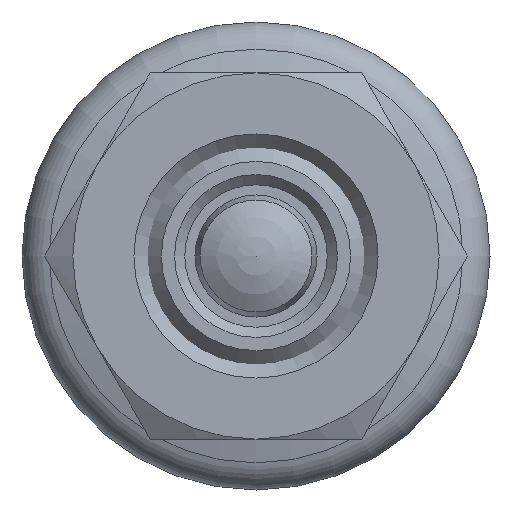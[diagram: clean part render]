
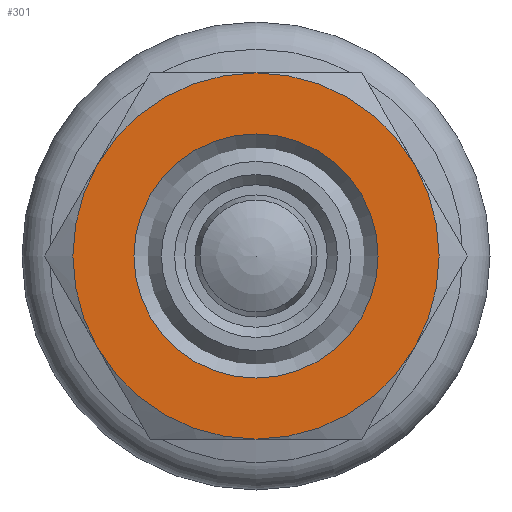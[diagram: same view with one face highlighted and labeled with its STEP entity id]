
A CAD part, front view. The second image highlights one B-rep face of the part: STEP entity #301.
In plain terms, the highlighted planar face has unit normal (0, -1, 0).
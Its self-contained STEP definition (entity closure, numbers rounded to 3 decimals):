
#301 = ADVANCED_FACE( '', ( #458, #459 ), #460, .F. );
#458 = FACE_BOUND( '', #652, .T. );
#459 = FACE_OUTER_BOUND( '', #653, .T. );
#460 = PLANE( '', #654 );
#652 = EDGE_LOOP( '', ( #1007 ) );
#653 = EDGE_LOOP( '', ( #1008, #1009, #1010, #1011, #1012, #1013 ) );
#654 = AXIS2_PLACEMENT_3D( '', #1014, #1015, #1016 );
#1007 = ORIENTED_EDGE( '', *, *, #1120, .F. );
#1008 = ORIENTED_EDGE( '', *, *, #1123, .T. );
#1009 = ORIENTED_EDGE( '', *, *, #1124, .T. );
#1010 = ORIENTED_EDGE( '', *, *, #1090, .T. );
#1011 = ORIENTED_EDGE( '', *, *, #1115, .T. );
#1012 = ORIENTED_EDGE( '', *, *, #1116, .T. );
#1013 = ORIENTED_EDGE( '', *, *, #1117, .T. );
#1014 = CARTESIAN_POINT( '', ( 9., 0., 0. ) );
#1015 = DIRECTION( '', ( 0., 1., 0. ) );
#1016 = DIRECTION( '', ( 0., 0., 1. ) );
#1090 = EDGE_CURVE( '', #1236, #1237, #1238, .T. );
#1115 = EDGE_CURVE( '', #1237, #1218, #1275, .T. );
#1116 = EDGE_CURVE( '', #1218, #1230, #1276, .T. );
#1117 = EDGE_CURVE( '', #1230, #1277, #1278, .T. );
#1120 = EDGE_CURVE( '', #1281, #1281, #1282, .T. );
#1123 = EDGE_CURVE( '', #1277, #1245, #1287, .T. );
#1124 = EDGE_CURVE( '', #1245, #1236, #1288, .T. );
#1218 = VERTEX_POINT( '', #1513 );
#1230 = VERTEX_POINT( '', #1547 );
#1236 = VERTEX_POINT( '', #1577 );
#1237 = VERTEX_POINT( '', #1578 );
#1238 = CIRCLE( '', #1579, 9. );
#1245 = VERTEX_POINT( '', #1599 );
#1275 = CIRCLE( '', #1699, 9. );
#1276 = CIRCLE( '', #1700, 9. );
#1277 = VERTEX_POINT( '', #1701 );
#1278 = CIRCLE( '', #1702, 9. );
#1281 = VERTEX_POINT( '', #1717 );
#1282 = CIRCLE( '', #1718, 6. );
#1287 = CIRCLE( '', #1723, 9. );
#1288 = CIRCLE( '', #1724, 9. );
#1513 = CARTESIAN_POINT( '', ( -9., 0., 0. ) );
#1547 = CARTESIAN_POINT( '', ( -4.5, 0., -7.794 ) );
#1577 = CARTESIAN_POINT( '', ( 4.5, 0., 7.794 ) );
#1578 = CARTESIAN_POINT( '', ( -4.5, 0., 7.794 ) );
#1579 = AXIS2_PLACEMENT_3D( '', #1824, #1825, #1826 );
#1599 = CARTESIAN_POINT( '', ( 9., 0., 0. ) );
#1699 = AXIS2_PLACEMENT_3D( '', #1851, #1852, #1853 );
#1700 = AXIS2_PLACEMENT_3D( '', #1854, #1855, #1856 );
#1701 = CARTESIAN_POINT( '', ( 4.5, 0., -7.794 ) );
#1702 = AXIS2_PLACEMENT_3D( '', #1857, #1858, #1859 );
#1717 = CARTESIAN_POINT( '', ( 0., 0., -6. ) );
#1718 = AXIS2_PLACEMENT_3D( '', #1860, #1861, #1862 );
#1723 = AXIS2_PLACEMENT_3D( '', #1869, #1870, #1871 );
#1724 = AXIS2_PLACEMENT_3D( '', #1872, #1873, #1874 );
#1824 = CARTESIAN_POINT( '', ( 0., 0., 0. ) );
#1825 = DIRECTION( '', ( 0., -1., 0. ) );
#1826 = DIRECTION( '', ( 0., 0., -1. ) );
#1851 = CARTESIAN_POINT( '', ( 0., 0., 0. ) );
#1852 = DIRECTION( '', ( 0., -1., 0. ) );
#1853 = DIRECTION( '', ( 0., 0., -1. ) );
#1854 = CARTESIAN_POINT( '', ( 0., 0., 0. ) );
#1855 = DIRECTION( '', ( 0., -1., 0. ) );
#1856 = DIRECTION( '', ( 0., 0., -1. ) );
#1857 = CARTESIAN_POINT( '', ( 0., 0., 0. ) );
#1858 = DIRECTION( '', ( 0., -1., 0. ) );
#1859 = DIRECTION( '', ( 0., 0., -1. ) );
#1860 = CARTESIAN_POINT( '', ( 0., 0., 0. ) );
#1861 = DIRECTION( '', ( 0., -1., 0. ) );
#1862 = DIRECTION( '', ( 0., 0., -1. ) );
#1869 = CARTESIAN_POINT( '', ( 0., 0., 0. ) );
#1870 = DIRECTION( '', ( 0., -1., 0. ) );
#1871 = DIRECTION( '', ( 0., 0., -1. ) );
#1872 = CARTESIAN_POINT( '', ( 0., 0., 0. ) );
#1873 = DIRECTION( '', ( 0., -1., 0. ) );
#1874 = DIRECTION( '', ( 0., 0., -1. ) );
